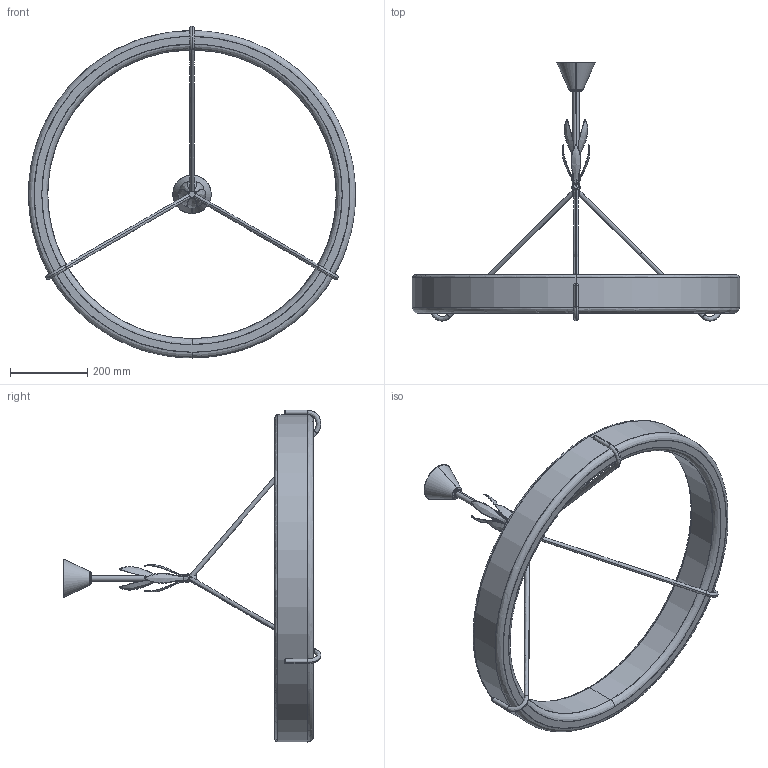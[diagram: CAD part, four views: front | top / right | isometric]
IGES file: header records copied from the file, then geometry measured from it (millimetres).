
Start section: SolidWorks IGES file using analytic representation for surfaces
Global section: file name: F:\燠隴矨\3D\10堎\Alta Plaster Chandelier-D85.IGS; native system: SolidWorks 2022; preprocessor: SolidWorks 2022; author: MyPC; date: 231013.094737; units: millimetre
Bounding box: 850 x 669.73 x 862 mm (x, y, z)
Surface area: 861368 mm2 (no closed solid volume)
Topology: 0 solids, 0 shells, 119 faces, 3760 edges, 3760 vertices
Faces by surface type: bspline 87, revolution 32
